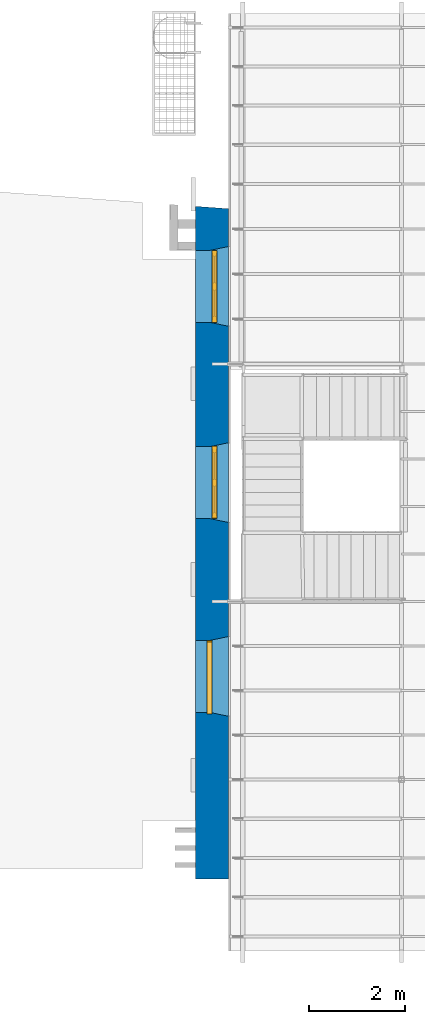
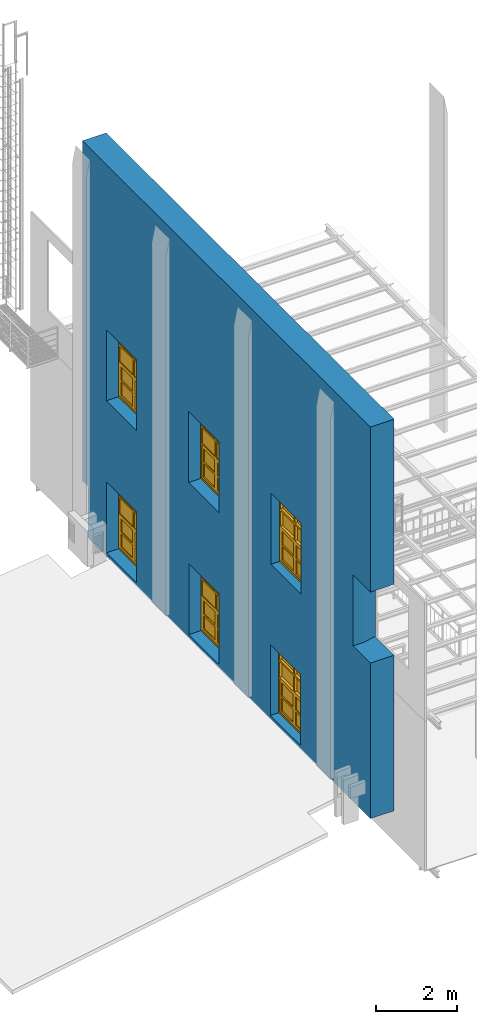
# One storey, part 24 of 33: 6 windows, 1 wall, 6 openings.
"""IFC2X3 building model written with IfcOpenShell, lengths in metres."""

from ifc_helpers import new_model, entity, si_unit, converted_unit, derived_unit, direction, frame, frame_2d, origin, place, context, subcontext, project, spatial, polyline, rectangle, outline, extrude, faceted_brep, source, transform, mapped, material, material_list, layer, layer_set, type_object, type_shapes, element, fill, save


model = new_model("IFC2X3")

# Units and contexts
model_context = context("Model", 3, precision=1e-05, world=origin(), true_north=direction((6.12303176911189e-17, 1.0)))
body_context = subcontext(model_context, "Body", "Model", "MODEL_VIEW")
ifc_project = project(units=[si_unit("LENGTHUNIT", "METRE"), si_unit("AREAUNIT", "SQUARE_METRE"), si_unit("VOLUMEUNIT", "CUBIC_METRE"), converted_unit("PLANEANGLEUNIT", "DEGREE", entity("IfcRatioMeasure", 0.0174532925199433), si_unit("PLANEANGLEUNIT", "RADIAN"), dimensions=[0, 0, 0, 0, 0, 0, 0]), si_unit("MASSUNIT", "GRAM", prefix="KILO"), derived_unit("MASSDENSITYUNIT", [(si_unit("MASSUNIT", "GRAM", prefix="KILO"), 1), (si_unit("LENGTHUNIT", "METRE"), -3)]), derived_unit("MOMENTOFINERTIAUNIT", [(si_unit("LENGTHUNIT", "METRE"), 4)]), si_unit("TIMEUNIT", "SECOND"), si_unit("FREQUENCYUNIT", "HERTZ"), si_unit("THERMODYNAMICTEMPERATUREUNIT", "DEGREE_CELSIUS"), derived_unit("THERMALTRANSMITTANCEUNIT", [(si_unit("MASSUNIT", "GRAM", prefix="KILO"), 1), (si_unit("THERMODYNAMICTEMPERATUREUNIT", "KELVIN"), -1), (si_unit("TIMEUNIT", "SECOND"), -3)]), derived_unit("VOLUMETRICFLOWRATEUNIT", [(si_unit("LENGTHUNIT", "METRE"), 3), (si_unit("TIMEUNIT", "SECOND"), -1)]), si_unit("ELECTRICCURRENTUNIT", "AMPERE"), si_unit("ELECTRICVOLTAGEUNIT", "VOLT"), si_unit("POWERUNIT", "WATT"), si_unit("FORCEUNIT", "NEWTON", prefix="KILO"), si_unit("ILLUMINANCEUNIT", "LUX"), si_unit("LUMINOUSFLUXUNIT", "LUMEN"), si_unit("LUMINOUSINTENSITYUNIT", "CANDELA"), derived_unit("USERDEFINED", [(si_unit("MASSUNIT", "GRAM", prefix="KILO"), -1), (si_unit("LENGTHUNIT", "METRE"), -2), (si_unit("TIMEUNIT", "SECOND"), 3), (si_unit("LUMINOUSFLUXUNIT", "LUMEN"), 1)]), derived_unit("LINEARVELOCITYUNIT", [(si_unit("LENGTHUNIT", "METRE"), 1), (si_unit("TIMEUNIT", "SECOND"), -1)]), si_unit("PRESSUREUNIT", "PASCAL"), derived_unit("USERDEFINED", [(si_unit("LENGTHUNIT", "METRE"), -2), (si_unit("MASSUNIT", "GRAM", prefix="KILO"), 1), (si_unit("TIMEUNIT", "SECOND"), -2)]), derived_unit("LINEARFORCEUNIT", [(si_unit("MASSUNIT", "GRAM", prefix="KILO"), 1), (si_unit("LENGTHUNIT", "METRE"), 1), (si_unit("TIMEUNIT", "SECOND"), -2), (si_unit("LENGTHUNIT", "METRE"), -1)]), derived_unit("PLANARFORCEUNIT", [(si_unit("MASSUNIT", "GRAM", prefix="KILO"), 1), (si_unit("LENGTHUNIT", "METRE"), 1), (si_unit("TIMEUNIT", "SECOND"), -2), (si_unit("LENGTHUNIT", "METRE"), -2)])], contexts=[model_context])

# Site, building, storey
site_placement = place(None, origin())
site = spatial("IfcSite", under=ifc_project, at=site_placement, Name="Superficie", CompositionType="ELEMENT")
building_placement = place(site_placement, origin())
building = spatial("IfcBuilding", under=site, at=building_placement, Name="Telegestiones", CompositionType="ELEMENT")
storey_placement = place(building_placement, frame((0.0, 0.0, 4.94)))
storey = spatial("IfcBuildingStorey", under=building, at=storey_placement, Name="Nivel 1_NPT", CompositionType="ELEMENT", Elevation=4.94)

# Wall, openings, windows
ifc_material_1 = material(Name="Albañilería expuesta")
ifc_layer_1 = layer(ifc_material_1, 0.12)
ifc_material_2 = material(Name="Muro por defecto")
ifc_layer_2 = layer(ifc_material_2, 0.56)
ifc_layer_set = layer_set([ifc_layer_1, ifc_layer_2], Name="Muro básico:ARQ-MU-EX-68-Lad")
wall_type = type_object("IfcWallType", Name="Muro básico:ARQ-MU-EX-68-Lad", PredefinedType="STANDARD", material=ifc_layer_set)
wall_placement = place(storey_placement, frame((5.69428977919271, 9.99912509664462, 0.900000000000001), z_axis=(0.0, 0.0, 1.0), x_axis=(0.0, -1.0, 0.0)))
wall = element("IfcWall", 1, at=wall_placement, inside=storey, type_object=wall_type, Name="Muro básico:ARQ-MU-EX-68-Lad", ObjectType="Muro básico:ARQ-MU-EX-68-Lad", context=body_context, shape_type="Brep", body=[
    faceted_brep([(0.27591299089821, -0.34, 0.0), (14.2955178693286, -0.34, 0.0), (14.2955178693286, -0.34, 4.71), (13.4355178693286, -0.340000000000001, 4.71), (13.4355178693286, -0.340000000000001, 6.86), (14.2955178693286, -0.34, 6.86), (14.2955178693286, -0.34, 11.86), (0.0, -0.34, 11.86), (0.0, -0.34, 1.56), (0.275912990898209, -0.34, 1.56), (10.8262450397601, -0.34, 2.26), (10.8262450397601, -0.34, 0.109999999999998), (9.32624503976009, -0.340000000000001, 0.109999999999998), (9.32624503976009, -0.340000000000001, 2.26), (5.28626035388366, -0.340000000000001, 0.109999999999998), (5.28626035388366, -0.340000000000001, 2.26), (6.78626035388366, -0.34, 2.26), (6.78626035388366, -0.34, 0.109999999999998), (5.27551786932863, -0.340000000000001, 4.71), (5.27551786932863, -0.340000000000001, 6.86), (6.77551786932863, -0.34, 6.86), (6.77551786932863, -0.34, 4.71), (10.8555178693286, -0.34, 6.86), (10.8555178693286, -0.34, 4.71), (9.35551786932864, -0.340000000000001, 4.71), (9.35551786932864, -0.340000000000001, 6.86), (1.19551786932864, -0.340000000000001, 4.71), (1.19551786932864, -0.340000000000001, 6.86), (2.69551786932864, -0.34, 6.86), (2.69551786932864, -0.34, 4.71), (1.19551786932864, -0.340000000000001, 0.109999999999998), (1.19551786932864, -0.340000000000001, 0.979899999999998), (1.19551786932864, -0.340000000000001, 2.26), (2.69551786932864, -0.34, 2.26), (2.69551786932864, -0.34, 0.109999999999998), (14.2955178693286, 0.34, 0.0), (1.28551786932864, 0.34, 0.0), (0.325692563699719, 0.34, 0.0), (0.32569256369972, 0.339999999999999, 1.56), (0.0, 0.34, 1.56), (0.0, 0.34, 11.86), (14.2955178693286, 0.34, 11.86), (14.2955178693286, 0.34, 6.86), (13.3556251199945, 0.34, 6.86), (13.3556251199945, 0.34, 4.71), (14.2955178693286, 0.34, 4.71), (5.19562511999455, 0.339999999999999, 6.86), (5.19562511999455, 0.339999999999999, 4.71), (6.85541061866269, 0.34, 4.71), (6.85541061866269, 0.34, 6.86), (9.27562511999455, 0.34, 6.86), (9.27562511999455, 0.34, 4.71), (10.9354106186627, 0.34, 4.71), (10.9354106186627, 0.34, 6.86), (1.11562511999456, 0.339999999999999, 2.26), (1.11562511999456, 0.339999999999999, 0.109999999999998), (2.7754106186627, 0.34, 0.109999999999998), (2.7754106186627, 0.34, 2.26), (5.20636760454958, 0.34, 2.26), (5.20636760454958, 0.34, 0.109999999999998), (6.86615310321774, 0.34, 0.109999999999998), (6.86615310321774, 0.34, 2.26), (9.246352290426, 0.339999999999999, 2.26), (9.246352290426, 0.339999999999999, 0.109999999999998), (10.9061377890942, 0.34, 0.109999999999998), (10.9061377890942, 0.34, 2.26), (2.77541061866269, 0.34, 6.86), (1.11562511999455, 0.339999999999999, 6.86), (1.11562511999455, 0.339999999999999, 4.71), (2.77541061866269, 0.34, 4.71), (10.8262450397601, -0.0494771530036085, 2.26), (10.8262450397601, -0.0494771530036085, 0.109999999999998), (9.32624503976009, -0.049477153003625, 2.26), (9.32624503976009, -0.0494771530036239, 0.109999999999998), (5.28626035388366, -0.0494771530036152, 0.109999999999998), (5.28626035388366, -0.049477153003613, 2.26), (6.78626035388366, -0.0494771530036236, 2.26), (6.78626035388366, -0.0494771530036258, 0.109999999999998), (1.19551786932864, -0.0494771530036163, 0.109999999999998), (1.19551786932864, -0.0494771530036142, 2.26), (2.69551786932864, -0.049477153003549, 2.26), (2.69551786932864, -0.0494771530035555, 0.109999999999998), (13.4355178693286, -0.0494771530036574, 4.71), (13.4355178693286, -0.0494771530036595, 6.86), (1.19551786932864, -0.0494771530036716, 6.86), (2.69551786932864, -0.049477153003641, 6.86), (1.19551786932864, -0.0494771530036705, 4.71), (2.69551786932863, -0.049477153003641, 4.71), (5.27551786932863, -0.0494771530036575, 4.71), (5.27551786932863, -0.0494771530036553, 6.86), (6.77551786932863, -0.0494771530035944, 6.86), (6.77551786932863, -0.0494771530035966, 4.71), (10.8555178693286, -0.0494771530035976, 6.86), (10.8555178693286, -0.0494771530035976, 4.71), (9.35551786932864, -0.0494771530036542, 4.71), (9.35551786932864, -0.0494771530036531, 6.85999999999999)], [[[0, 1, 2, 3, 4, 5, 6, 7, 8, 9], [10, 11, 12, 13], [14, 15, 16, 17], [18, 19, 20, 21], [22, 23, 24, 25], [26, 27, 28, 29], [30, 31, 32, 33, 34]], [[35, 36, 37, 38, 39, 40, 41, 42, 43, 44, 45], [46, 47, 48, 49], [50, 51, 52, 53], [54, 55, 56, 57], [58, 59, 60, 61], [62, 63, 64, 65], [66, 67, 68, 69]], [[0, 9, 38, 37]], [[11, 10, 70, 71]], [[10, 13, 72, 62, 65, 70]], [[13, 12, 73, 72]], [[15, 14, 74, 75]], [[17, 16, 76, 77]], [[32, 31, 30, 78, 79]], [[34, 33, 80, 81]], [[30, 34, 81, 56, 55, 78]], [[4, 3, 82, 83]], [[84, 67, 66, 85, 28, 27]], [[68, 86, 26, 29, 87, 69]], [[1, 0, 37, 36, 35]], [[7, 6, 41, 40]], [[8, 7, 40, 39]], [[8, 39, 38, 9]], [[41, 6, 5, 42]], [[19, 18, 88, 89]], [[21, 20, 90, 91]], [[23, 22, 92, 93]], [[25, 24, 94, 95]], [[67, 84, 86, 68]], [[85, 66, 69, 87]], [[46, 89, 88, 47]], [[90, 49, 48, 91]], [[50, 95, 94, 51]], [[92, 53, 52, 93]], [[43, 83, 82, 44]], [[54, 79, 78, 55]], [[80, 57, 56, 81]], [[58, 75, 74, 59]], [[76, 61, 60, 77]], [[62, 72, 73, 63]], [[70, 65, 64, 71]], [[26, 86, 84, 27]], [[28, 85, 87, 29]], [[1, 35, 45, 2]], [[3, 2, 45, 44, 82]], [[24, 23, 93, 52, 51, 94]], [[18, 21, 91, 48, 47, 88]], [[20, 19, 89, 46, 49, 90]], [[22, 25, 95, 50, 53, 92]], [[5, 4, 83, 43, 42]], [[14, 17, 77, 60, 59, 74]], [[12, 11, 71, 64, 63, 73]], [[16, 15, 75, 58, 61, 76]], [[33, 32, 79, 54, 57, 80]]]),
])
opening_1_placement = place(wall_placement, frame((10.8262450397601, 0.339999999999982, 0.109999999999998)))
opening_1 = element("IfcOpeningElement", 2, at=opening_1_placement, cuts=wall, Name="ARQ-VE-EX-215x170-Ace:ARQ-VE-EX-215x170-Ace:1", ObjectType="Opening", context=body_context, shape_type="SweptSolid", body=[
    extrude(rectangle(XDim=2.15, YDim=1.5, at=frame_2d((1.075, 0.75), x_axis=(1.0, 0.0))), frame((0.0, 0.0, 0.0), z_axis=(0.0, -1.0, 0.0), x_axis=(0.0, 0.0, 1.0)), (0.0, 0.0, 1.0), 0.68),
])
opening_2_placement = place(wall_placement, frame((5.28626035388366, -0.340000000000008, 0.109999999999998)))
opening_2 = element("IfcOpeningElement", 3, at=opening_2_placement, cuts=wall, Name="ARQ-VE-EX-215x170-Ace:ARQ-VE-EX-215x170-Ace:1", ObjectType="Opening", context=body_context, shape_type="SweptSolid", body=[
    extrude(rectangle(XDim=2.15, YDim=1.5, at=frame_2d((1.075, 0.749999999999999), x_axis=(1.0, 0.0))), frame((0.0, 0.0, 0.0), z_axis=(0.0, 1.0, 0.0), x_axis=(0.0, 0.0, 1.0)), (0.0, 0.0, 1.0), 0.68),
])
opening_3_placement = place(wall_placement, frame((1.19551786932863, -0.340000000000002, 0.109999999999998)))
opening_3 = element("IfcOpeningElement", 4, at=opening_3_placement, cuts=wall, Name="ARQ-VE-EX-215x170-Ace:ARQ-VE-EX-215x170-Ace:1", ObjectType="Opening", context=body_context, shape_type="SweptSolid", body=[
    extrude(rectangle(XDim=2.15, YDim=1.5, at=frame_2d((1.075, 0.75), x_axis=(1.0, 0.0))), frame((0.0, 0.0, 0.0), z_axis=(0.0, 1.0, 0.0), x_axis=(0.0, 0.0, 1.0)), (0.0, 0.0, 1.0), 0.68),
])
opening_4_placement = place(wall_placement, frame((10.8555178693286, 0.339999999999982, 4.71)))
opening_4 = element("IfcOpeningElement", 5, at=opening_4_placement, cuts=wall, Name="ARQ-VE-EX-215x170-Ace:ARQ-VE-EX-215x170-Ace:1", ObjectType="Opening", context=body_context, shape_type="SweptSolid", body=[
    extrude(rectangle(XDim=2.15, YDim=1.5, at=frame_2d((1.075, 0.75), x_axis=(1.0, 0.0))), frame((0.0, 0.0, 0.0), z_axis=(0.0, -1.0, 0.0), x_axis=(0.0, 0.0, 1.0)), (0.0, 0.0, 1.0), 0.68),
])
opening_5_placement = place(wall_placement, frame((5.27551786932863, -0.340000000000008, 4.71)))
opening_5 = element("IfcOpeningElement", 6, at=opening_5_placement, cuts=wall, Name="ARQ-VE-EX-215x170-Ace:ARQ-VE-EX-215x170-Ace:1", ObjectType="Opening", context=body_context, shape_type="SweptSolid", body=[
    extrude(rectangle(XDim=2.15, YDim=1.5, at=frame_2d((1.075, 0.75), x_axis=(1.0, 0.0))), frame((0.0, 0.0, 0.0), z_axis=(0.0, 1.0, 0.0), x_axis=(0.0, 0.0, 1.0)), (0.0, 0.0, 1.0), 0.68),
])
opening_6_placement = place(wall_placement, frame((1.19551786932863, -0.340000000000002, 4.71)))
opening_6 = element("IfcOpeningElement", 7, at=opening_6_placement, cuts=wall, Name="ARQ-VE-EX-215x170-Ace:ARQ-VE-EX-215x170-Ace:1", ObjectType="Opening", context=body_context, shape_type="SweptSolid", body=[
    extrude(rectangle(XDim=2.15, YDim=1.5, at=frame_2d((1.075, 0.75), x_axis=(1.0, 0.0))), frame((0.0, 0.0, 0.0), z_axis=(0.0, 1.0, 0.0), x_axis=(0.0, 0.0, 1.0)), (0.0, 0.0, 1.0), 0.68),
])
ifc_material_3 = material(Name="Nogal")
ifc_material_4 = material(Name="Vidrio")
ifc_material_list_1 = material_list([ifc_material_3, ifc_material_4])
ifc_material_list_2 = material_list([ifc_material_3, ifc_material_4, ifc_material_4, ifc_material_4, ifc_material_4, ifc_material_3, ifc_material_4, ifc_material_4, ifc_material_4, ifc_material_4, ifc_material_3])
window_style = type_object("IfcWindowStyle", Name="ARQ-VE-EX-215x170-Ace:ARQ-VE-EX-215x170-Ace", ConstructionType="NOTDEFINED", OperationType="NOTDEFINED", ParameterTakesPrecedence=False, Sizeable=False, material=ifc_material_list_2)
shared_shape = source(origin(), body_context, "Body", "SweptSolid", [
    extrude(outline(polyline([(-0.75, -1.075), (0.75, -1.075), (0.75, 1.075), (-0.75, 1.075), (-0.75, -1.075)]), holes=[polyline([(0.7, -0.500000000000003), (0.0249999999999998, -0.500000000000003), (0.0249999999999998, -0.0249999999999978), (0.7, -0.0250000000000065), (0.7, -0.500000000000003)]), polyline([(0.0249999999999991, -1.025), (0.0249999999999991, -0.549999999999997), (0.7, -0.550000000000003), (0.7, -1.025), (0.0249999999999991, -1.025)]), polyline([(-0.7, -0.550000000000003), (-0.0250000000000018, -0.550000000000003), (-0.0250000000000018, -1.025), (-0.7, -1.025), (-0.7, -0.550000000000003)]), polyline([(0.7, 0.0250000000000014), (-0.7, 0.0250000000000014), (-0.7, 1.025), (0.7, 1.025), (0.7, 0.0250000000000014)]), polyline([(-0.0250000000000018, -0.0250000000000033), (-0.0250000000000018, -0.499999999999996), (-0.7, -0.500000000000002), (-0.7, -0.0250000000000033), (-0.0250000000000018, -0.0250000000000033)])]), frame((0.75, 0.34, 1.075), z_axis=(0.0, 1.0, 0.0), x_axis=(1.0, 0.0, 0.0)), (0.0, 0.0, 1.0), 0.1),
    extrude(rectangle(XDim=0.01, YDim=0.675000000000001, at=frame_2d((-2.16840434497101e-18, -2.77555756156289e-17), x_axis=(1.0, 0.0))), frame((1.1125, 0.365, 1.1), z_axis=(0.0, 0.0, 1.0), x_axis=(0.0, 1.0, 0.0)), (0.0, 0.0, 1.0), 0.475000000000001),
    extrude(rectangle(XDim=0.01, YDim=0.674999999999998, at=frame_2d((2.16840434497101e-18, 0.0), x_axis=(1.0, 0.0))), frame((0.387499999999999, 0.365, 1.625), z_axis=(0.0, 0.0, 1.0), x_axis=(0.0, 1.0, 0.0)), (0.0, 0.0, 1.0), 0.474999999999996),
    extrude(rectangle(XDim=0.01, YDim=0.675000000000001, at=frame_2d((-2.16840434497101e-18, -2.77555756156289e-17), x_axis=(1.0, 0.0))), frame((1.1125, 0.365, 1.625), z_axis=(0.0, 0.0, 1.0), x_axis=(0.0, 1.0, 0.0)), (0.0, 0.0, 1.0), 0.475),
    extrude(rectangle(XDim=0.01, YDim=0.674999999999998, at=frame_2d((1.73472347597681e-18, 0.0), x_axis=(1.0, 0.0))), frame((0.387499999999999, 0.365, 1.1), z_axis=(0.0, 0.0, 1.0), x_axis=(0.0, 1.0, 0.0)), (0.0, 0.0, 1.0), 0.474999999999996),
    extrude(outline(polyline([(-0.499999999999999, -0.349999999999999), (0.500000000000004, -0.349999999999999), (0.5, 0.350000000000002), (-0.500000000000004, 0.349999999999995), (-0.499999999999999, -0.349999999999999)]), holes=[polyline([(0.430000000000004, -0.279999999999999), (0.0250000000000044, -0.279999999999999), (0.025000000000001, 0.279999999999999), (0.43, 0.280000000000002), (0.430000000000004, -0.279999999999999)]), polyline([(-0.024999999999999, 0.280000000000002), (-0.0249999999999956, -0.279999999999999), (-0.429999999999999, -0.279999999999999), (-0.430000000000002, 0.279999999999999), (-0.024999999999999, 0.280000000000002)])]), frame((0.399999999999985, 0.35, 0.549999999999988), z_axis=(0.0, 1.0, 0.0), x_axis=(0.0, 0.0, -1.0)), (0.0, 0.0, 1.0), 0.08),
    extrude(rectangle(XDim=0.02, YDim=0.56, at=frame_2d((4.33680868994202e-18, 0.0), x_axis=(1.0, 0.0))), frame((1.10000000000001, 0.39, 0.574999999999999), z_axis=(0.0, 0.0, 1.0), x_axis=(0.0, 1.0, 0.0)), (0.0, 0.0, 1.0), 0.405000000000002),
    extrude(rectangle(XDim=0.02, YDim=0.56, at=frame_2d((4.33680868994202e-18, 2.77555756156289e-17), x_axis=(1.0, 0.0))), frame((0.4, 0.39, 0.574999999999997), z_axis=(0.0, 0.0, 1.0), x_axis=(0.0, 1.0, 0.0)), (0.0, 0.0, 1.0), 0.405000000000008),
    extrude(rectangle(XDim=0.02, YDim=0.56, at=frame_2d((4.33680868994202e-18, 2.77555756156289e-17), x_axis=(1.0, 0.0))), frame((0.4, 0.39, 0.12), z_axis=(0.0, 0.0, 1.0), x_axis=(0.0, 1.0, 0.0)), (0.0, 0.0, 1.0), 0.404999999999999),
    extrude(rectangle(XDim=0.02, YDim=0.56, at=frame_2d((4.33680868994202e-18, 0.0), x_axis=(1.0, 0.0))), frame((1.10000000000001, 0.39, 0.12), z_axis=(0.0, 0.0, 1.0), x_axis=(0.0, 1.0, 0.0)), (0.0, 0.0, 1.0), 0.404999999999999),
    extrude(outline(polyline([(-0.350000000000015, -0.500000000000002), (0.350000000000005, -0.500000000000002), (0.350000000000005, 0.500000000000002), (-0.349999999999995, 0.500000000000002), (-0.350000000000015, -0.500000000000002)]), holes=[polyline([(-0.279999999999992, 0.430000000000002), (0.280000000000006, 0.430000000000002), (0.280000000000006, 0.0250000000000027), (-0.279999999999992, 0.0250000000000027), (-0.279999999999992, 0.430000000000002)]), polyline([(0.280000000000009, -0.0249999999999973), (0.280000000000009, -0.430000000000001), (-0.279999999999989, -0.429999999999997), (-0.279999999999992, -0.0249999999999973), (0.280000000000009, -0.0249999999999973)])]), frame((1.1, 0.35, 0.550000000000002), z_axis=(0.0, 1.0, 0.0), x_axis=(1.0, 0.0, 0.0)), (0.0, 0.0, 1.0), 0.08),
])
type_shapes(window_style, [shared_shape])
window_1_placement = place(opening_1_placement, frame((0.0, 0.0, 0.0), z_axis=(0.0, 0.0, 1.0), x_axis=(-1.0, 0.0, 0.0)))
window_1 = element("IfcWindow", 8, at=window_1_placement, inside=storey, type_object=window_style, material=ifc_material_list_1, Name="ARQ-VE-EX-215x170-Ace:ARQ-VE-EX-215x170-Ace", ObjectType="ARQ-VE-EX-215x170-Ace:ARQ-VE-EX-215x170-Ace", OverallHeight=2.15, OverallWidth=1.5, context=body_context, shape_type="MappedRepresentation", body=[
    mapped(shared_shape, transform((0.0, 0.0, 0.0), scale=1.0)),
])
fill(opening_1, window_1)
ifc_material_list_3 = material_list([ifc_material_3, ifc_material_4])
window_2_placement = place(opening_2_placement, origin())
window_2 = element("IfcWindow", 9, at=window_2_placement, inside=storey, type_object=window_style, material=ifc_material_list_3, Name="ARQ-VE-EX-215x170-Ace:ARQ-VE-EX-215x170-Ace", ObjectType="ARQ-VE-EX-215x170-Ace:ARQ-VE-EX-215x170-Ace", OverallHeight=2.15, OverallWidth=1.5, context=body_context, shape_type="MappedRepresentation", body=[
    mapped(shared_shape, transform((0.0, 0.0, 0.0), scale=1.0)),
])
fill(opening_2, window_2)
ifc_material_list_4 = material_list([ifc_material_3, ifc_material_4])
window_3_placement = place(opening_3_placement, origin())
window_3 = element("IfcWindow", 10, at=window_3_placement, inside=storey, type_object=window_style, material=ifc_material_list_4, Name="ARQ-VE-EX-215x170-Ace:ARQ-VE-EX-215x170-Ace", ObjectType="ARQ-VE-EX-215x170-Ace:ARQ-VE-EX-215x170-Ace", OverallHeight=2.15, OverallWidth=1.5, context=body_context, shape_type="MappedRepresentation", body=[
    mapped(shared_shape, transform((0.0, 0.0, 0.0), scale=1.0)),
])
fill(opening_3, window_3)
ifc_material_list_5 = material_list([ifc_material_3, ifc_material_4])
window_4_placement = place(opening_4_placement, frame((0.0, 0.0, 0.0), z_axis=(0.0, 0.0, 1.0), x_axis=(-1.0, 0.0, 0.0)))
window_4 = element("IfcWindow", 11, at=window_4_placement, inside=storey, type_object=window_style, material=ifc_material_list_5, Name="ARQ-VE-EX-215x170-Ace:ARQ-VE-EX-215x170-Ace", ObjectType="ARQ-VE-EX-215x170-Ace:ARQ-VE-EX-215x170-Ace", OverallHeight=2.15, OverallWidth=1.5, context=body_context, shape_type="MappedRepresentation", body=[
    mapped(shared_shape, transform((0.0, 0.0, 0.0), scale=1.0)),
])
fill(opening_4, window_4)
ifc_material_list_6 = material_list([ifc_material_3, ifc_material_4])
window_5_placement = place(opening_5_placement, origin())
window_5 = element("IfcWindow", 12, at=window_5_placement, inside=storey, type_object=window_style, material=ifc_material_list_6, Name="ARQ-VE-EX-215x170-Ace:ARQ-VE-EX-215x170-Ace", ObjectType="ARQ-VE-EX-215x170-Ace:ARQ-VE-EX-215x170-Ace", OverallHeight=2.15, OverallWidth=1.5, context=body_context, shape_type="MappedRepresentation", body=[
    mapped(shared_shape, transform((0.0, 0.0, 0.0), scale=1.0)),
])
fill(opening_5, window_5)
ifc_material_list_7 = material_list([ifc_material_3, ifc_material_4])
window_6_placement = place(opening_6_placement, origin())
window_6 = element("IfcWindow", 13, at=window_6_placement, inside=storey, type_object=window_style, material=ifc_material_list_7, Name="ARQ-VE-EX-215x170-Ace:ARQ-VE-EX-215x170-Ace", ObjectType="ARQ-VE-EX-215x170-Ace:ARQ-VE-EX-215x170-Ace", OverallHeight=2.15, OverallWidth=1.5, context=body_context, shape_type="MappedRepresentation", body=[
    mapped(shared_shape, transform((0.0, 0.0, 0.0), scale=1.0)),
])
fill(opening_6, window_6)

save(model, "model.ifc")
